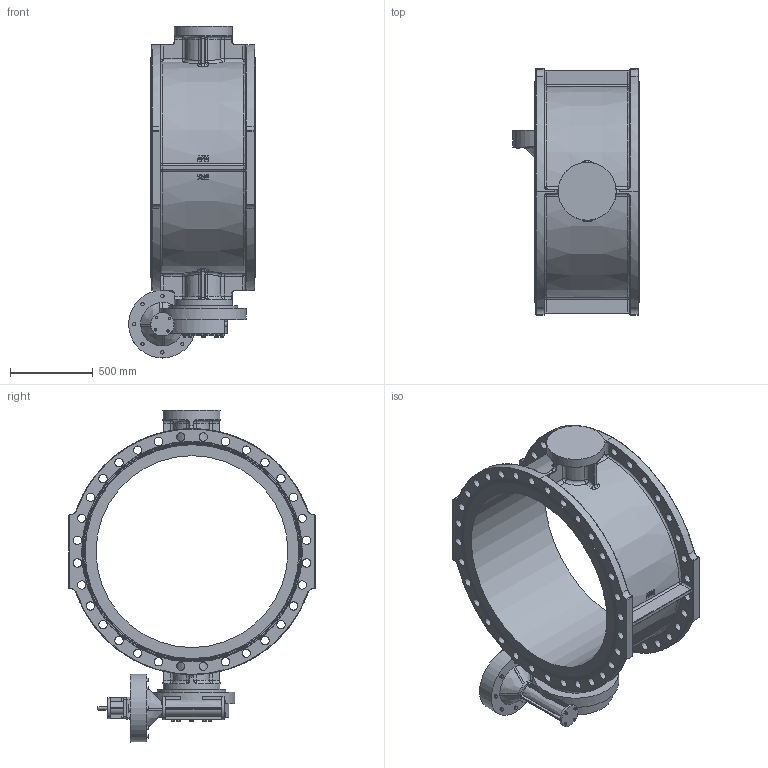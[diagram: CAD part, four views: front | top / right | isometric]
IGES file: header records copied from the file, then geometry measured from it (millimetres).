
Start section: SolidWorks IGES file using analytic representation for surfaces
Global section: file name: \\avksan2\techshare\PBM outline export from Enovia\O_756_1_DN1200_11XX02_AA0.igs; native system: SolidWorks 2012; preprocessor: SolidWorks 2012; author: pbm; date: 191219.115325; units: millimetre
Bounding box: 765 x 1485 x 2004 mm (x, y, z)
Surface area: 9462514.7 mm2 (no closed solid volume)
Topology: 0 solids, 0 shells, 1316 faces, 6678 edges, 6378 vertices
Faces by surface type: bspline 744, revolution 572
